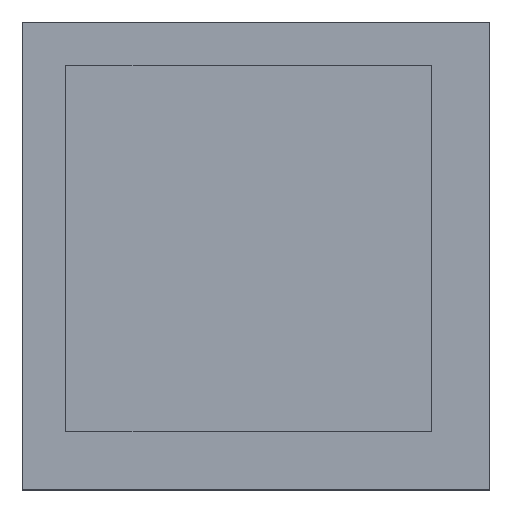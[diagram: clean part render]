
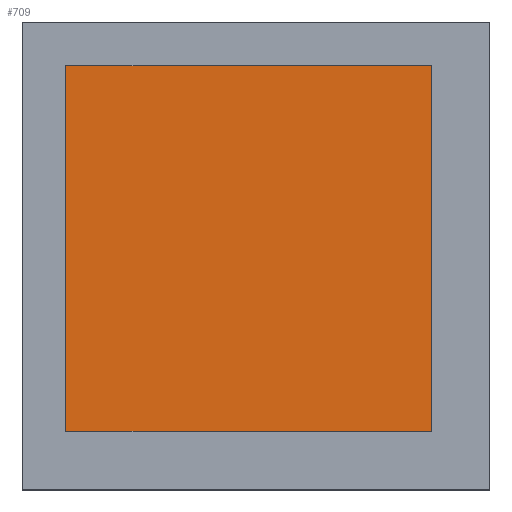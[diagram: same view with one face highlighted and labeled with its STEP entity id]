
A CAD part, top view. The second image highlights one B-rep face of the part: STEP entity #709.
In plain terms, the highlighted planar face has unit normal (0, 0, 1).
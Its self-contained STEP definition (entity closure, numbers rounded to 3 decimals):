
#395 = VERTEX_POINT('',#396);
#396 = CARTESIAN_POINT('',(-6.25,-6.25,0.7));
#403 = PLANE('',#404);
#404 = AXIS2_PLACEMENT_3D('',#405,#406,#407);
#405 = CARTESIAN_POINT('',(-6.25,-6.25,-0.7));
#406 = DIRECTION('',(1.,0.,-0.));
#407 = DIRECTION('',(0.,0.,1.));
#415 = PLANE('',#416);
#416 = AXIS2_PLACEMENT_3D('',#417,#418,#419);
#417 = CARTESIAN_POINT('',(-6.25,-6.25,-0.7));
#418 = DIRECTION('',(-0.,1.,0.));
#419 = DIRECTION('',(0.,0.,1.));
#456 = VERTEX_POINT('',#457);
#457 = CARTESIAN_POINT('',(-6.25,6.25,0.7));
#471 = PLANE('',#472);
#472 = AXIS2_PLACEMENT_3D('',#473,#474,#475);
#473 = CARTESIAN_POINT('',(-6.25,6.25,-0.7));
#474 = DIRECTION('',(-0.,1.,0.));
#475 = DIRECTION('',(0.,0.,1.));
#483 = EDGE_CURVE('',#395,#456,#484,.T.);
#484 = SURFACE_CURVE('',#485,(#489,#496),.PCURVE_S1.);
#485 = LINE('',#486,#487);
#486 = CARTESIAN_POINT('',(-6.25,-6.25,0.7));
#487 = VECTOR('',#488,1.);
#488 = DIRECTION('',(-0.,1.,0.));
#489 = PCURVE('',#403,#490);
#490 = DEFINITIONAL_REPRESENTATION('',(#491),#495);
#491 = LINE('',#492,#493);
#492 = CARTESIAN_POINT('',(1.4,0.));
#493 = VECTOR('',#494,1.);
#494 = DIRECTION('',(0.,-1.));
#495 = ( GEOMETRIC_REPRESENTATION_CONTEXT(2) 
PARAMETRIC_REPRESENTATION_CONTEXT() REPRESENTATION_CONTEXT('2D SPACE',''
  ) );
#496 = PCURVE('',#497,#502);
#497 = PLANE('',#498);
#498 = AXIS2_PLACEMENT_3D('',#499,#500,#501);
#499 = CARTESIAN_POINT('',(-6.25,-6.25,0.7));
#500 = DIRECTION('',(0.,0.,1.));
#501 = DIRECTION('',(1.,0.,-0.));
#502 = DEFINITIONAL_REPRESENTATION('',(#503),#507);
#503 = LINE('',#504,#505);
#504 = CARTESIAN_POINT('',(0.,0.));
#505 = VECTOR('',#506,1.);
#506 = DIRECTION('',(0.,1.));
#507 = ( GEOMETRIC_REPRESENTATION_CONTEXT(2) 
PARAMETRIC_REPRESENTATION_CONTEXT() REPRESENTATION_CONTEXT('2D SPACE',''
  ) );
#515 = VERTEX_POINT('',#516);
#516 = CARTESIAN_POINT('',(6.25,-6.25,0.7));
#523 = PLANE('',#524);
#524 = AXIS2_PLACEMENT_3D('',#525,#526,#527);
#525 = CARTESIAN_POINT('',(6.25,-6.25,-0.7));
#526 = DIRECTION('',(1.,0.,-0.));
#527 = DIRECTION('',(0.,0.,1.));
#566 = VERTEX_POINT('',#567);
#567 = CARTESIAN_POINT('',(6.25,6.25,0.7));
#588 = EDGE_CURVE('',#515,#566,#589,.T.);
#589 = SURFACE_CURVE('',#590,(#594,#601),.PCURVE_S1.);
#590 = LINE('',#591,#592);
#591 = CARTESIAN_POINT('',(6.25,-6.25,0.7));
#592 = VECTOR('',#593,1.);
#593 = DIRECTION('',(-0.,1.,0.));
#594 = PCURVE('',#523,#595);
#595 = DEFINITIONAL_REPRESENTATION('',(#596),#600);
#596 = LINE('',#597,#598);
#597 = CARTESIAN_POINT('',(1.4,0.));
#598 = VECTOR('',#599,1.);
#599 = DIRECTION('',(0.,-1.));
#600 = ( GEOMETRIC_REPRESENTATION_CONTEXT(2) 
PARAMETRIC_REPRESENTATION_CONTEXT() REPRESENTATION_CONTEXT('2D SPACE',''
  ) );
#601 = PCURVE('',#497,#602);
#602 = DEFINITIONAL_REPRESENTATION('',(#603),#607);
#603 = LINE('',#604,#605);
#604 = CARTESIAN_POINT('',(12.5,0.));
#605 = VECTOR('',#606,1.);
#606 = DIRECTION('',(0.,1.));
#607 = ( GEOMETRIC_REPRESENTATION_CONTEXT(2) 
PARAMETRIC_REPRESENTATION_CONTEXT() REPRESENTATION_CONTEXT('2D SPACE',''
  ) );
#634 = EDGE_CURVE('',#395,#515,#635,.T.);
#635 = SURFACE_CURVE('',#636,(#640,#647),.PCURVE_S1.);
#636 = LINE('',#637,#638);
#637 = CARTESIAN_POINT('',(-6.25,-6.25,0.7));
#638 = VECTOR('',#639,1.);
#639 = DIRECTION('',(1.,0.,-0.));
#640 = PCURVE('',#415,#641);
#641 = DEFINITIONAL_REPRESENTATION('',(#642),#646);
#642 = LINE('',#643,#644);
#643 = CARTESIAN_POINT('',(1.4,0.));
#644 = VECTOR('',#645,1.);
#645 = DIRECTION('',(0.,1.));
#646 = ( GEOMETRIC_REPRESENTATION_CONTEXT(2) 
PARAMETRIC_REPRESENTATION_CONTEXT() REPRESENTATION_CONTEXT('2D SPACE',''
  ) );
#647 = PCURVE('',#497,#648);
#648 = DEFINITIONAL_REPRESENTATION('',(#649),#653);
#649 = LINE('',#650,#651);
#650 = CARTESIAN_POINT('',(0.,0.));
#651 = VECTOR('',#652,1.);
#652 = DIRECTION('',(1.,0.));
#653 = ( GEOMETRIC_REPRESENTATION_CONTEXT(2) 
PARAMETRIC_REPRESENTATION_CONTEXT() REPRESENTATION_CONTEXT('2D SPACE',''
  ) );
#681 = EDGE_CURVE('',#456,#566,#682,.T.);
#682 = SURFACE_CURVE('',#683,(#687,#694),.PCURVE_S1.);
#683 = LINE('',#684,#685);
#684 = CARTESIAN_POINT('',(-6.25,6.25,0.7));
#685 = VECTOR('',#686,1.);
#686 = DIRECTION('',(1.,0.,-0.));
#687 = PCURVE('',#471,#688);
#688 = DEFINITIONAL_REPRESENTATION('',(#689),#693);
#689 = LINE('',#690,#691);
#690 = CARTESIAN_POINT('',(1.4,0.));
#691 = VECTOR('',#692,1.);
#692 = DIRECTION('',(0.,1.));
#693 = ( GEOMETRIC_REPRESENTATION_CONTEXT(2) 
PARAMETRIC_REPRESENTATION_CONTEXT() REPRESENTATION_CONTEXT('2D SPACE',''
  ) );
#694 = PCURVE('',#497,#695);
#695 = DEFINITIONAL_REPRESENTATION('',(#696),#700);
#696 = LINE('',#697,#698);
#697 = CARTESIAN_POINT('',(0.,12.5));
#698 = VECTOR('',#699,1.);
#699 = DIRECTION('',(1.,0.));
#700 = ( GEOMETRIC_REPRESENTATION_CONTEXT(2) 
PARAMETRIC_REPRESENTATION_CONTEXT() REPRESENTATION_CONTEXT('2D SPACE',''
  ) );
#709 = ADVANCED_FACE('',(#710),#497,.T.);
#710 = FACE_BOUND('',#711,.T.);
#711 = EDGE_LOOP('',(#712,#713,#714,#715));
#712 = ORIENTED_EDGE('',*,*,#483,.F.);
#713 = ORIENTED_EDGE('',*,*,#634,.T.);
#714 = ORIENTED_EDGE('',*,*,#588,.T.);
#715 = ORIENTED_EDGE('',*,*,#681,.F.);
